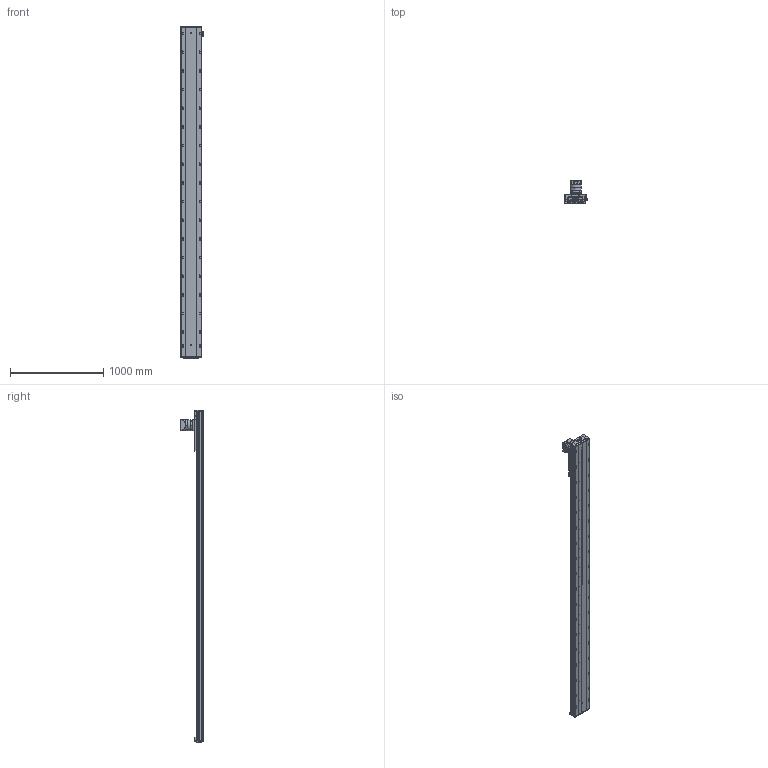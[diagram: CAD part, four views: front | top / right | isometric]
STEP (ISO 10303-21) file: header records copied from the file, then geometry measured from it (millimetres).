
FILE_DESCRIPTION (( 'STEP AP203' ), '1' );
FILE_NAME ('RY220-C-300-UK.SLDASM_3050.step', '2022-08-01T06:00:42', ( '' ), ( '' ), 'SwSTEP 2.0', 'SolidWorks 2016', '' );
FILE_SCHEMA (( 'CONFIG_CONTROL_DESIGN' ));
Length unit declared in the file: millimetre
Products named in the file (10): RY140直线电机感应器674光电安装座; RY220喘沭綴裔啣; PF115L1-S2-22-58-110-145-M8; RY220喘沭賑輸; RY220-齿条模组电机安装板; 滅袉蝶輸ㄗG412隅秶ㄘ; RY220菁釱MK-300_3050; 覜茼ん674; RY220喘沭俋离覜茼え; RY220-C-300-UK.SLDASM_3050
Assembly tree (12 placements, depth 2):
  RY220-C-300-UK.SLDASM_3050
    RY220菁釱MK-300_3050
    RY220喘沭賑輸
    RY220-齿条模组电机安装板
    PF115L1-S2-22-58-110-145-M8
    RY220喘沭綴裔啣  x2
    滅袉蝶輸ㄗG412隅秶ㄘ  x2
    RY140直线电机感应器674光电安装座
    覜茼ん674  x2
    RY220喘沭俋离覜茼え
Bounding box: 247 x 244.5 x 3559 mm (x, y, z)
Volume: 23427187.8 mm3; surface area: 4843577.5 mm2
Topology: 18 solids, 26 shells, 2450 faces, 6609 edges, 4109 vertices
Faces by surface type: cylinder 1207, plane 751, cone 330, bspline 162
Entity records: 78005 total; most frequent: CARTESIAN_POINT 21087, DIRECTION 11811, ORIENTED_EDGE 11458, EDGE_CURVE 5729, AXIS2_PLACEMENT_3D 4541, VERTEX_POINT 3735, EDGE_LOOP 2892, LINE 2729
